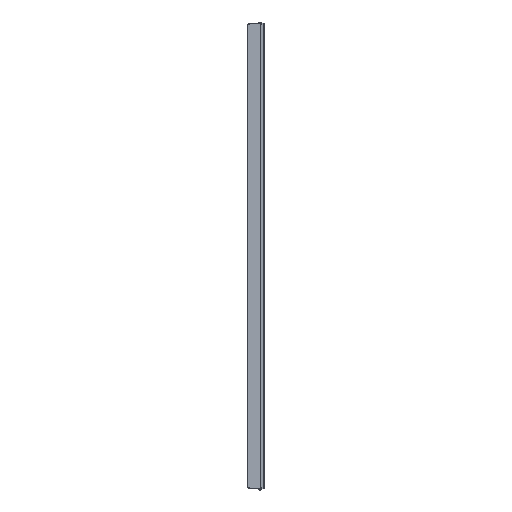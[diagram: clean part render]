
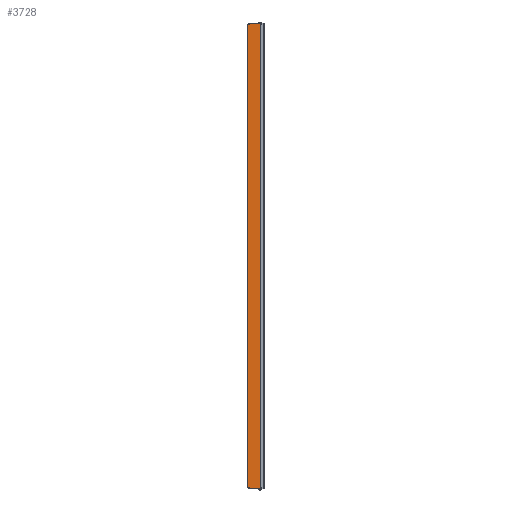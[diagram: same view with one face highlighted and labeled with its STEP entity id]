
A CAD part, left-side view. The second image highlights one B-rep face of the part: STEP entity #3728.
In plain terms, the highlighted planar face has unit normal (-1, 0, 0).
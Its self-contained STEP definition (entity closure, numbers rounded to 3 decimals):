
#185=DIRECTION('',(0.,1.,0.));
#186=VECTOR('',#185,3.3);
#187=CARTESIAN_POINT('',(-19.,13.2,364.5));
#188=LINE('',#187,#186);
#417=DIRECTION('',(0.,0.,-1.));
#418=VECTOR('',#417,1.);
#419=CARTESIAN_POINT('',(-19.,13.2,-364.5));
#420=LINE('',#419,#418);
#429=DIRECTION('',(0.,1.,0.));
#430=VECTOR('',#429,3.3);
#431=CARTESIAN_POINT('',(-19.,13.2,-364.5));
#432=LINE('',#431,#430);
#433=DIRECTION('',(0.,0.,1.));
#434=VECTOR('',#433,1.);
#435=CARTESIAN_POINT('',(-19.,13.2,364.5));
#436=LINE('',#435,#434);
#441=DIRECTION('',(0.,0.,1.));
#442=VECTOR('',#441,731.);
#443=CARTESIAN_POINT('',(-19.,-4.3,-365.5));
#444=LINE('',#443,#442);
#989=DIRECTION('',(0.,-1.,0.));
#990=VECTOR('',#989,17.5);
#991=CARTESIAN_POINT('',(-19.,13.2,-365.5));
#992=LINE('',#991,#990);
#2085=DIRECTION('',(0.,1.,0.));
#2086=VECTOR('',#2085,17.5);
#2087=CARTESIAN_POINT('',(-19.,-4.3,365.5));
#2088=LINE('',#2087,#2086);
#2321=DIRECTION('',(0.,0.,-1.));
#2322=VECTOR('',#2321,729.);
#2323=CARTESIAN_POINT('',(-19.,16.5,364.5));
#2324=LINE('',#2323,#2322);
#2357=CARTESIAN_POINT('',(-19.,16.5,-364.5));
#2358=VERTEX_POINT('',#2357);
#2367=CARTESIAN_POINT('',(-19.,16.5,364.5));
#2368=VERTEX_POINT('',#2367);
#2457=CARTESIAN_POINT('',(-19.,13.2,365.5));
#2458=VERTEX_POINT('',#2457);
#2663=CARTESIAN_POINT('',(-19.,-4.3,365.5));
#2665=VERTEX_POINT('',#2663);
#2745=CARTESIAN_POINT('',(-19.,13.2,364.5));
#2747=VERTEX_POINT('',#2745);
#2775=CARTESIAN_POINT('',(-19.,13.2,-365.5));
#2777=VERTEX_POINT('',#2775);
#2781=CARTESIAN_POINT('',(-19.,-4.3,-365.5));
#2782=VERTEX_POINT('',#2781);
#3011=CARTESIAN_POINT('',(-19.,13.2,-364.5));
#3012=VERTEX_POINT('',#3011);
#3709=CARTESIAN_POINT('',(-19.,16.5,-364.5));
#3710=DIRECTION('',(-1.,0.,0.));
#3711=DIRECTION('',(0.,-1.,0.));
#3712=AXIS2_PLACEMENT_3D('',#3709,#3710,#3711);
#3713=PLANE('',#3712);
#3715=ORIENTED_EDGE('',*,*,#3714,.F.);
#3717=ORIENTED_EDGE('',*,*,#3716,.F.);
#3718=ORIENTED_EDGE('',*,*,#3700,.F.);
#3719=ORIENTED_EDGE('',*,*,#3126,.T.);
#3721=ORIENTED_EDGE('',*,*,#3720,.F.);
#3722=ORIENTED_EDGE('',*,*,#3356,.F.);
#3723=ORIENTED_EDGE('',*,*,#3545,.T.);
#3725=ORIENTED_EDGE('',*,*,#3724,.F.);
#3726=EDGE_LOOP('',(#3715,#3717,#3718,#3719,#3721,#3722,#3723,#3725));
#3727=FACE_OUTER_BOUND('',#3726,.F.);
#3126=EDGE_CURVE('',#3012,#2358,#432,.T.);
#3356=EDGE_CURVE('',#2747,#2368,#188,.T.);
#3545=EDGE_CURVE('',#2747,#2458,#436,.T.);
#3700=EDGE_CURVE('',#3012,#2777,#420,.T.);
#3714=EDGE_CURVE('',#2782,#2665,#444,.T.);
#3716=EDGE_CURVE('',#2777,#2782,#992,.T.);
#3720=EDGE_CURVE('',#2368,#2358,#2324,.T.);
#3724=EDGE_CURVE('',#2665,#2458,#2088,.T.);
#3728=ADVANCED_FACE('',(#3727),#3713,.T.);
